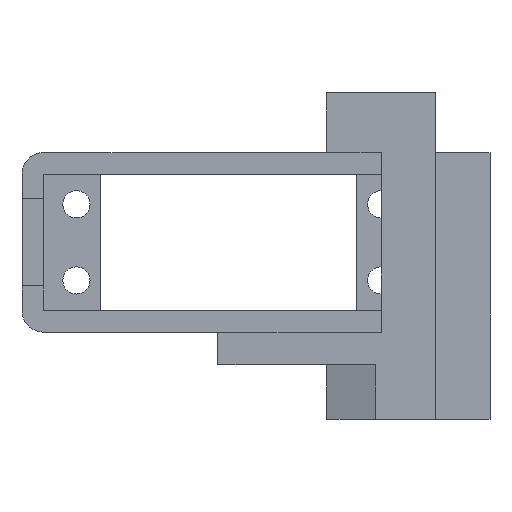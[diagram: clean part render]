
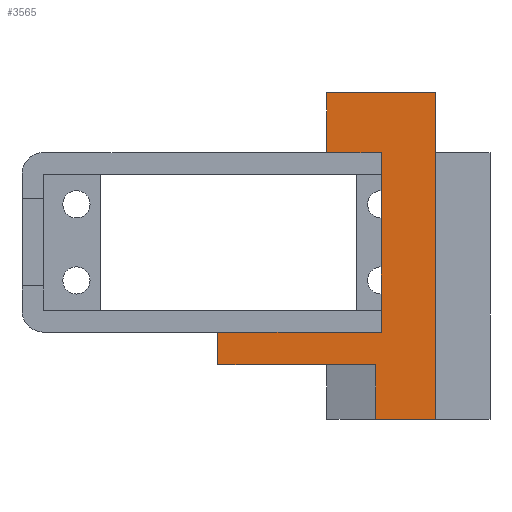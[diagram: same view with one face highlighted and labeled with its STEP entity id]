
A CAD part, left-side view. The second image highlights one B-rep face of the part: STEP entity #3565.
In plain terms, the highlighted planar face has unit normal (-1, 0, 0).
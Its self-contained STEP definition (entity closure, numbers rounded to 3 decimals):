
#7 = CARTESIAN_POINT ( 'NONE',  ( 0., -5.5, 0. ) ) ;
#136 = AXIS2_PLACEMENT_3D ( 'NONE', #6438, #4878, #6545 ) ;
#168 = VERTEX_POINT ( 'NONE', #2061 ) ;
#383 = ORIENTED_EDGE ( 'NONE', *, *, #407, .F. ) ;
#407 = EDGE_CURVE ( 'NONE', #2296, #2852, #6773, .T. ) ;
#613 = DIRECTION ( 'NONE',  ( 0., -1., 0. ) ) ;
#709 = CARTESIAN_POINT ( 'NONE',  ( 0., -5.5, 30. ) ) ;
#799 = VERTEX_POINT ( 'NONE', #2438 ) ;
#870 = CARTESIAN_POINT ( 'NONE',  ( 0., 14.5, 5. ) ) ;
#929 = CARTESIAN_POINT ( 'NONE',  ( 0., 0., 8. ) ) ;
#948 = CARTESIAN_POINT ( 'NONE',  ( 0., 4.5, 27.5 ) ) ;
#1084 = CARTESIAN_POINT ( 'NONE',  ( 0., 0., 5. ) ) ;
#1118 = ORIENTED_EDGE ( 'NONE', *, *, #5751, .F. ) ;
#1380 = VECTOR ( 'NONE', #2046, 1000. ) ;
#1414 = CARTESIAN_POINT ( 'NONE',  ( 0., -5.5, 24.5 ) ) ;
#1452 = DIRECTION ( 'NONE',  ( 0., 0., 1. ) ) ;
#1478 = DIRECTION ( 'NONE',  ( 0., 0., -1. ) ) ;
#1501 = VECTOR ( 'NONE', #1478, 1000. ) ;
#1512 = DIRECTION ( 'NONE',  ( 0., -1., 0. ) ) ;
#1635 = EDGE_CURVE ( 'NONE', #1971, #3671, #3658, .T. ) ;
#1845 = EDGE_LOOP ( 'NONE', ( #2300, #2800, #4945, #2428, #6859, #1118, #383, #4772, #6541, #3831 ) ) ;
#1971 = VERTEX_POINT ( 'NONE', #870 ) ;
#1974 = LINE ( 'NONE', #948, #6817 ) ;
#2007 = EDGE_CURVE ( 'NONE', #3532, #3678, #5258, .T. ) ;
#2046 = DIRECTION ( 'NONE',  ( 0., 0., -1. ) ) ;
#2061 = CARTESIAN_POINT ( 'NONE',  ( 0., 4.5, 24.5 ) ) ;
#2296 = VERTEX_POINT ( 'NONE', #4357 ) ;
#2300 = ORIENTED_EDGE ( 'NONE', *, *, #3726, .F. ) ;
#2315 = DIRECTION ( 'NONE',  ( 0., 0., -1. ) ) ;
#2407 = CARTESIAN_POINT ( 'NONE',  ( 0., 0., 8. ) ) ;
#2428 = ORIENTED_EDGE ( 'NONE', *, *, #2007, .T. ) ;
#2438 = CARTESIAN_POINT ( 'NONE',  ( 0., -0.5, 24.5 ) ) ;
#2468 = LINE ( 'NONE', #6332, #5480 ) ;
#2566 = LINE ( 'NONE', #1414, #4932 ) ;
#2686 = EDGE_CURVE ( 'NONE', #3532, #1971, #6112, .T. ) ;
#2709 = VECTOR ( 'NONE', #5577, 1000. ) ;
#2725 = FACE_OUTER_BOUND ( 'NONE', #1845, .T. ) ;
#2800 = ORIENTED_EDGE ( 'NONE', *, *, #1635, .F. ) ;
#2852 = VERTEX_POINT ( 'NONE', #709 ) ;
#3041 = LINE ( 'NONE', #4147, #1380 ) ;
#3055 = EDGE_CURVE ( 'NONE', #168, #799, #2566, .T. ) ;
#3135 = CARTESIAN_POINT ( 'NONE',  ( 0., 0., 0. ) ) ;
#3303 = EDGE_CURVE ( 'NONE', #799, #3552, #5596, .T. ) ;
#3422 = CARTESIAN_POINT ( 'NONE',  ( 0., -5.5, 5. ) ) ;
#3435 = EDGE_CURVE ( 'NONE', #3678, #5483, #2468, .T. ) ;
#3526 = VECTOR ( 'NONE', #2315, 1000. ) ;
#3532 = VERTEX_POINT ( 'NONE', #1084 ) ;
#3552 = VERTEX_POINT ( 'NONE', #3784 ) ;
#3565 = ADVANCED_FACE ( 'NONE', ( #2725 ), #4355, .F. ) ;
#3615 = CARTESIAN_POINT ( 'NONE',  ( 0., 14.5, 5. ) ) ;
#3618 = DIRECTION ( 'NONE',  ( 0., -1., 0. ) ) ;
#3626 = LINE ( 'NONE', #929, #6739 ) ;
#3658 = LINE ( 'NONE', #3615, #5206 ) ;
#3671 = VERTEX_POINT ( 'NONE', #5703 ) ;
#3678 = VERTEX_POINT ( 'NONE', #3135 ) ;
#3726 = EDGE_CURVE ( 'NONE', #3671, #3552, #3626, .T. ) ;
#3784 = CARTESIAN_POINT ( 'NONE',  ( 0., -0.5, 8. ) ) ;
#3831 = ORIENTED_EDGE ( 'NONE', *, *, #3303, .T. ) ;
#4147 = CARTESIAN_POINT ( 'NONE',  ( 0., -5.5, 8. ) ) ;
#4355 = PLANE ( 'NONE',  #136 ) ;
#4357 = CARTESIAN_POINT ( 'NONE',  ( 0., 4.5, 30. ) ) ;
#4530 = EDGE_CURVE ( 'NONE', #2296, #168, #1974, .T. ) ;
#4772 = ORIENTED_EDGE ( 'NONE', *, *, #4530, .T. ) ;
#4878 = DIRECTION ( 'NONE',  ( 1., 0., 0. ) ) ;
#4919 = VECTOR ( 'NONE', #5803, 1000. ) ;
#4932 = VECTOR ( 'NONE', #3618, 1000. ) ;
#4945 = ORIENTED_EDGE ( 'NONE', *, *, #2686, .F. ) ;
#5050 = CARTESIAN_POINT ( 'NONE',  ( 0., -0.5, 24.5 ) ) ;
#5206 = VECTOR ( 'NONE', #1452, 1000. ) ;
#5224 = CARTESIAN_POINT ( 'NONE',  ( 0., 4.5, 30. ) ) ;
#5258 = LINE ( 'NONE', #2407, #1501 ) ;
#5480 = VECTOR ( 'NONE', #1512, 1000. ) ;
#5483 = VERTEX_POINT ( 'NONE', #7 ) ;
#5577 = DIRECTION ( 'NONE',  ( 0., 1., 0. ) ) ;
#5596 = LINE ( 'NONE', #5050, #3526 ) ;
#5703 = CARTESIAN_POINT ( 'NONE',  ( 0., 14.5, 8. ) ) ;
#5751 = EDGE_CURVE ( 'NONE', #2852, #5483, #3041, .T. ) ;
#5803 = DIRECTION ( 'NONE',  ( 0., -1., 0. ) ) ;
#6112 = LINE ( 'NONE', #3422, #2709 ) ;
#6332 = CARTESIAN_POINT ( 'NONE',  ( 0., 0., 0. ) ) ;
#6438 = CARTESIAN_POINT ( 'NONE',  ( 0., 0., 8. ) ) ;
#6541 = ORIENTED_EDGE ( 'NONE', *, *, #3055, .T. ) ;
#6545 = DIRECTION ( 'NONE',  ( 0., 1., 0. ) ) ;
#6739 = VECTOR ( 'NONE', #613, 1000. ) ;
#6773 = LINE ( 'NONE', #5224, #4919 ) ;
#6793 = DIRECTION ( 'NONE',  ( 0., 0., -1. ) ) ;
#6817 = VECTOR ( 'NONE', #6793, 1000. ) ;
#6859 = ORIENTED_EDGE ( 'NONE', *, *, #3435, .T. ) ;
